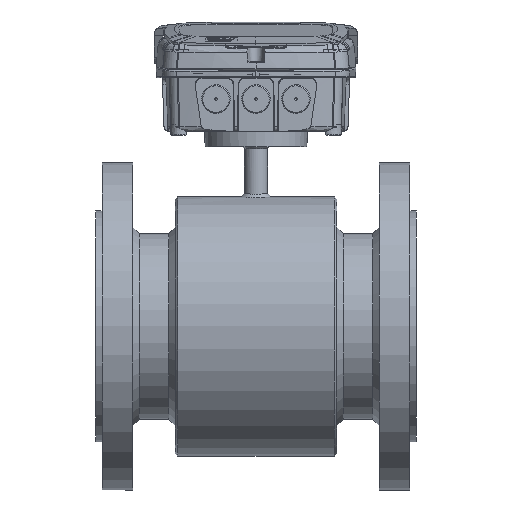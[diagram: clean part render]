
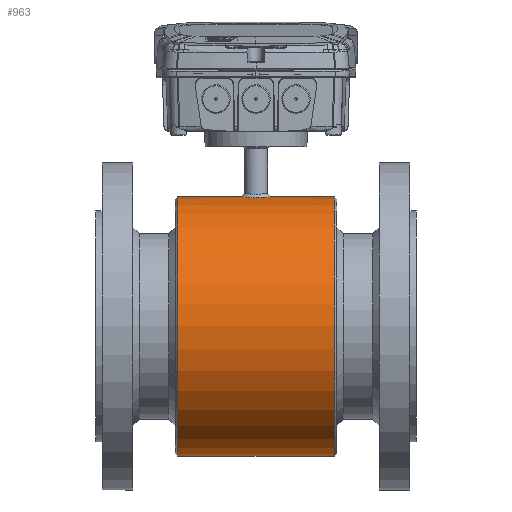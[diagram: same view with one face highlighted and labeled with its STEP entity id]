
A CAD part, front view. The second image highlights one B-rep face of the part: STEP entity #963.
In plain terms, the highlighted cylindrical face has radius 101 mm (diameter 202 mm), a full revolution.
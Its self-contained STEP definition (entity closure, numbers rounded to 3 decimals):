
#899=CARTESIAN_POINT('',(0.,-11.487,100.345));
#900=VERTEX_POINT('',#899);
#910=CARTESIAN_POINT('',(0.,-11.488,100.344));
#911=CARTESIAN_POINT('',(1.766,-11.488,100.344));
#912=CARTESIAN_POINT('',(5.299,-10.701,100.439));
#913=CARTESIAN_POINT('',(9.54,-7.41,100.756));
#914=CARTESIAN_POINT('',(11.899,-2.648,101.01));
#915=CARTESIAN_POINT('',(11.899,2.649,101.009));
#916=CARTESIAN_POINT('',(9.54,7.406,100.757));
#917=CARTESIAN_POINT('',(4.827,11.075,100.401));
#918=CARTESIAN_POINT('',(-0.646,11.878,100.298));
#919=CARTESIAN_POINT('',(-6.344,10.164,100.496));
#920=CARTESIAN_POINT('',(-9.94,6.917,100.799));
#921=CARTESIAN_POINT('',(-11.896,2.056,101.01));
#922=CARTESIAN_POINT('',(-11.901,-2.646,101.01));
#923=CARTESIAN_POINT('',(-9.54,-7.411,100.757));
#924=CARTESIAN_POINT('',(-5.299,-10.701,100.439));
#925=CARTESIAN_POINT('',(-1.766,-11.488,100.344));
#926=CARTESIAN_POINT('',(0.,-11.488,100.344));
#927=B_SPLINE_CURVE_WITH_KNOTS('',3,(#910,#911,#912,#913,#914,#915,#916,#917,#918,#919,#920,#921,#922,#923,#924,#925,#926),.UNSPECIFIED.,.T.,.U.,(4,1,1,1,1,1,1,1,1,1,1,1,1,1,4),(-7.388,-6.86,-6.332,-5.805,-5.277,-4.749,-4.222,-3.518,-3.166,-2.463,-2.111,-1.583,-1.055,-0.528,0.0),.UNSPECIFIED.);
#928=EDGE_CURVE('',#900,#900,#927,.T.);
#933=CARTESIAN_POINT('',(30.5,0.0,0.0));
#934=DIRECTION('',(1.0,0.0,0.0));
#935=DIRECTION('',(0.0,1.0,0.0));
#936=AXIS2_PLACEMENT_3D('',#933,#934,#935);
#937=CYLINDRICAL_SURFACE('',#936,101.);
#938=CARTESIAN_POINT('',(-61.,101.0,0.0));
#939=VERTEX_POINT('',#938);
#940=CARTESIAN_POINT('',(-61.,0.0,0.0));
#941=DIRECTION('',(1.0,0.0,0.0));
#942=DIRECTION('',(0.0,1.0,0.0));
#943=AXIS2_PLACEMENT_3D('',#940,#941,#942);
#944=CIRCLE('',#943,101.0);
#945=EDGE_CURVE('',#939,#939,#944,.T.);
#946=ORIENTED_EDGE('',*,*,#945,.T.);
#947=EDGE_LOOP('',(#946));
#948=FACE_OUTER_BOUND('',#947,.T.);
#949=CARTESIAN_POINT('',(61.,101.0,0.0));
#950=VERTEX_POINT('',#949);
#951=CARTESIAN_POINT('',(61.,0.0,0.0));
#952=DIRECTION('',(1.0,0.0,0.0));
#953=DIRECTION('',(0.0,1.0,0.0));
#954=AXIS2_PLACEMENT_3D('',#951,#952,#953);
#955=CIRCLE('',#954,101.0);
#956=EDGE_CURVE('',#950,#950,#955,.T.);
#957=ORIENTED_EDGE('',*,*,#956,.F.);
#958=EDGE_LOOP('',(#957));
#959=FACE_BOUND('',#958,.T.);
#960=ORIENTED_EDGE('',*,*,#928,.F.);
#961=EDGE_LOOP('',(#960));
#962=FACE_BOUND('',#961,.T.);
#963=ADVANCED_FACE('',(#948,#959,#962),#937,.T.);
